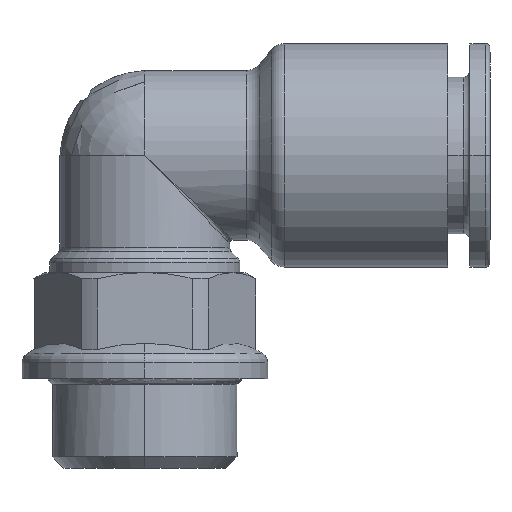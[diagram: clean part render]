
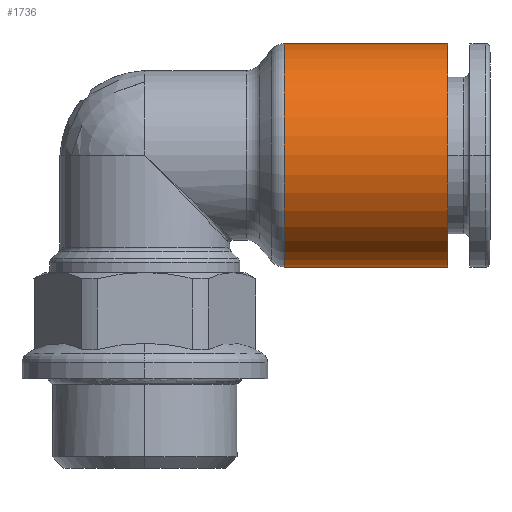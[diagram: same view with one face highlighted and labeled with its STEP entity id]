
A CAD part, top view. The second image highlights one B-rep face of the part: STEP entity #1736.
In plain terms, the highlighted cylindrical face has radius 10 mm (diameter 20 mm), a partial arc.
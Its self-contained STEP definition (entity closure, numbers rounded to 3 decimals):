
#179 = CARTESIAN_POINT ( 'NONE',  ( 27.1, 38., 0. ) ) ;
#291 = EDGE_CURVE ( 'NONE', #5123, #5958, #4976, .T. ) ;
#975 = CIRCLE ( 'NONE', #7288, 10. ) ;
#986 = EDGE_CURVE ( 'NONE', #5982, #5958, #6604, .T. ) ;
#1067 = ORIENTED_EDGE ( 'NONE', *, *, #291, .F. ) ;
#1268 = DIRECTION ( 'NONE',  ( 0., 1., 0. ) ) ;
#1654 = DIRECTION ( 'NONE',  ( 0., 1., 0.023 ) ) ;
#1736 = ADVANCED_FACE ( 'NONE', ( #6223 ), #2958, .T. ) ;
#2540 = AXIS2_PLACEMENT_3D ( 'NONE', #8282, #2693, #8950 ) ;
#2693 = DIRECTION ( 'NONE',  ( 1., 0., 0. ) ) ;
#2777 = DIRECTION ( 'NONE',  ( 1., 0., 0. ) ) ;
#2796 = CARTESIAN_POINT ( 'NONE',  ( 26.5, 38., 0. ) ) ;
#2958 = CYLINDRICAL_SURFACE ( 'NONE', #2540, 10. ) ;
#2996 = DIRECTION ( 'NONE',  ( -1., 0., 0. ) ) ;
#3028 = VECTOR ( 'NONE', #2777, 1000. ) ;
#3261 = ORIENTED_EDGE ( 'NONE', *, *, #986, .T. ) ;
#3426 = CARTESIAN_POINT ( 'NONE',  ( 12.499, 28., 0. ) ) ;
#4153 = LINE ( 'NONE', #9092, #3028 ) ;
#4193 = ORIENTED_EDGE ( 'NONE', *, *, #4870, .T. ) ;
#4408 = CARTESIAN_POINT ( 'NONE',  ( 27.1, 18., 0. ) ) ;
#4771 = DIRECTION ( 'NONE',  ( 1., 0., 0. ) ) ;
#4870 = EDGE_CURVE ( 'NONE', #5123, #5983, #975, .T. ) ;
#4976 = LINE ( 'NONE', #2796, #6596 ) ;
#5123 = VERTEX_POINT ( 'NONE', #8226 ) ;
#5613 = DIRECTION ( 'NONE',  ( 1., 0., 0. ) ) ;
#5958 = VERTEX_POINT ( 'NONE', #179 ) ;
#5982 = VERTEX_POINT ( 'NONE', #4408 ) ;
#5983 = VERTEX_POINT ( 'NONE', #8872 ) ;
#6079 = EDGE_LOOP ( 'NONE', ( #4193, #9029, #3261, #1067 ) ) ;
#6223 = FACE_OUTER_BOUND ( 'NONE', #6079, .T. ) ;
#6596 = VECTOR ( 'NONE', #5613, 1000. ) ;
#6604 = CIRCLE ( 'NONE', #8553, 10. ) ;
#7288 = AXIS2_PLACEMENT_3D ( 'NONE', #3426, #4771, #1268 ) ;
#7906 = CARTESIAN_POINT ( 'NONE',  ( 27.1, 28., 0. ) ) ;
#8148 = EDGE_CURVE ( 'NONE', #5983, #5982, #4153, .T. ) ;
#8226 = CARTESIAN_POINT ( 'NONE',  ( 12.499, 38., 0. ) ) ;
#8282 = CARTESIAN_POINT ( 'NONE',  ( 26.5, 28., 0. ) ) ;
#8553 = AXIS2_PLACEMENT_3D ( 'NONE', #7906, #2996, #1654 ) ;
#8872 = CARTESIAN_POINT ( 'NONE',  ( 12.499, 18., 0. ) ) ;
#8950 = DIRECTION ( 'NONE',  ( 0., 1., 0. ) ) ;
#9029 = ORIENTED_EDGE ( 'NONE', *, *, #8148, .T. ) ;
#9092 = CARTESIAN_POINT ( 'NONE',  ( 26.5, 18., 0. ) ) ;
